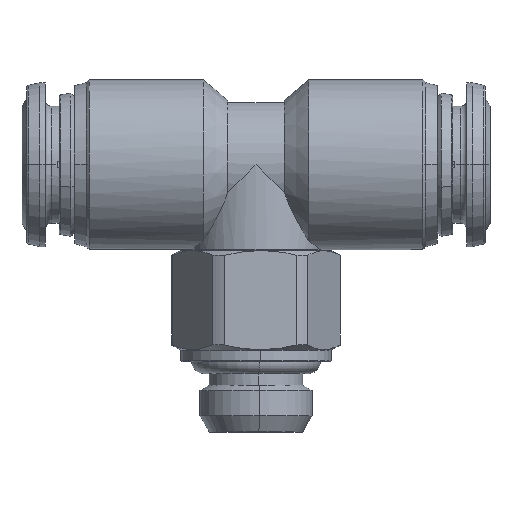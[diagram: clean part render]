
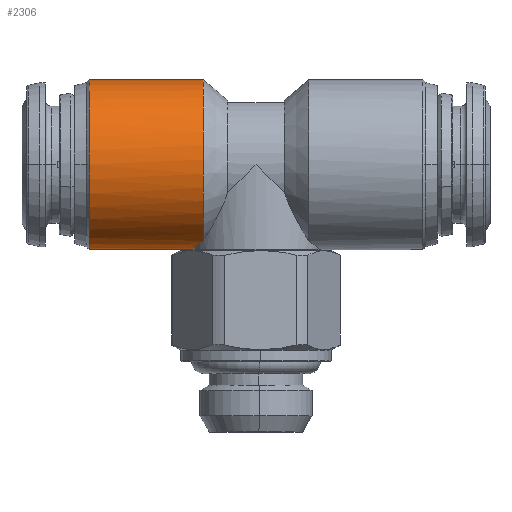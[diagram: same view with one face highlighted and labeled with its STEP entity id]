
A CAD part, top view. The second image highlights one B-rep face of the part: STEP entity #2306.
In plain terms, the highlighted cylindrical face has radius 7.25 mm (diameter 14.5 mm), a partial arc.
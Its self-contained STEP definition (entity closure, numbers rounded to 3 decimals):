
#79 = CARTESIAN_POINT ( 'NONE',  ( -15.5, 0., 0. ) ) ;
#224 = CARTESIAN_POINT ( 'NONE',  ( -5.477, 0.017, 0.576 ) ) ;
#287 = CIRCLE ( 'NONE', #3461, 7.25 ) ;
#387 = CYLINDRICAL_SURFACE ( 'NONE', #2422, 7.25 ) ;
#405 = ORIENTED_EDGE ( 'NONE', *, *, #3834, .T. ) ;
#494 = DIRECTION ( 'NONE',  ( 0., -1., 0. ) ) ;
#501 = CARTESIAN_POINT ( 'NONE',  ( -14.268, 0., 0. ) ) ;
#538 = DIRECTION ( 'NONE',  ( -1., 0., 0. ) ) ;
#685 = EDGE_CURVE ( 'NONE', #4040, #4174, #4235, .T. ) ;
#708 = CARTESIAN_POINT ( 'NONE',  ( -4.795, 0.519, 2.707 ) ) ;
#742 = CARTESIAN_POINT ( 'NONE',  ( -4.5, 0.726, 3.162 ) ) ;
#781 = B_SPLINE_CURVE_WITH_KNOTS ( 'NONE', 3,
 ( #1940, #2751, #224, #1038, #4348, #4398, #4434, #708, #3493, #742 ),
 .UNSPECIFIED., .F., .F.,
 ( 4, 2, 2, 2, 4 ),
 ( 0.009, 0.01, 0.011, 0.012, 0.012 ),
 .UNSPECIFIED. ) ;
#958 = EDGE_CURVE ( 'NONE', #4463, #4040, #1935, .T. ) ;
#981 = VECTOR ( 'NONE', #4267, 1000. ) ;
#1038 = CARTESIAN_POINT ( 'NONE',  ( -5.388, 0.085, 1.141 ) ) ;
#1279 = ORIENTED_EDGE ( 'NONE', *, *, #5070, .T. ) ;
#1335 = AXIS2_PLACEMENT_3D ( 'NONE', #2654, #3078, #4724 ) ;
#1693 = CARTESIAN_POINT ( 'NONE',  ( -14.268, 14.5, 0. ) ) ;
#1935 = CIRCLE ( 'NONE', #4506, 7.25 ) ;
#1940 = CARTESIAN_POINT ( 'NONE',  ( -5.5, 0., 0. ) ) ;
#1957 = ORIENTED_EDGE ( 'NONE', *, *, #685, .T. ) ;
#2164 = DIRECTION ( 'NONE',  ( -1., 0., 0. ) ) ;
#2306 = ADVANCED_FACE ( 'NONE', ( #3157 ), #387, .T. ) ;
#2378 = VERTEX_POINT ( 'NONE', #501 ) ;
#2422 = AXIS2_PLACEMENT_3D ( 'NONE', #4188, #2519, #4105 ) ;
#2433 = DIRECTION ( 'NONE',  ( 1., 0., 0. ) ) ;
#2519 = DIRECTION ( 'NONE',  ( -1., 0., 0. ) ) ;
#2622 = CARTESIAN_POINT ( 'NONE',  ( -15.5, 14.5, 0. ) ) ;
#2642 = ORIENTED_EDGE ( 'NONE', *, *, #3500, .F. ) ;
#2654 = CARTESIAN_POINT ( 'NONE',  ( -14.268, 7.25, 0. ) ) ;
#2751 = CARTESIAN_POINT ( 'NONE',  ( -5.5, 0., 0.29 ) ) ;
#2811 = CARTESIAN_POINT ( 'NONE',  ( -14.268, 7.25, 0. ) ) ;
#2851 = EDGE_LOOP ( 'NONE', ( #3708, #1957, #405, #4695, #2642, #1279 ) ) ;
#2864 = CIRCLE ( 'NONE', #1335, 7.25 ) ;
#3078 = DIRECTION ( 'NONE',  ( 1., 0., 0. ) ) ;
#3132 = CARTESIAN_POINT ( 'NONE',  ( -5.5, 0., 0. ) ) ;
#3157 = FACE_OUTER_BOUND ( 'NONE', #2851, .T. ) ;
#3294 = VECTOR ( 'NONE', #538, 1000. ) ;
#3394 = VERTEX_POINT ( 'NONE', #5159 ) ;
#3422 = CARTESIAN_POINT ( 'NONE',  ( -4.5, 0.726, 3.162 ) ) ;
#3461 = AXIS2_PLACEMENT_3D ( 'NONE', #2811, #2433, #4458 ) ;
#3493 = CARTESIAN_POINT ( 'NONE',  ( -4.654, 0.62, 2.943 ) ) ;
#3500 = EDGE_CURVE ( 'NONE', #5111, #2378, #3721, .T. ) ;
#3708 = ORIENTED_EDGE ( 'NONE', *, *, #958, .T. ) ;
#3721 = LINE ( 'NONE', #79, #3294 ) ;
#3834 = EDGE_CURVE ( 'NONE', #4174, #3394, #2864, .T. ) ;
#4040 = VERTEX_POINT ( 'NONE', #4159 ) ;
#4105 = DIRECTION ( 'NONE',  ( 0., -1., 0. ) ) ;
#4159 = CARTESIAN_POINT ( 'NONE',  ( -4.5, 14.5, 0. ) ) ;
#4174 = VERTEX_POINT ( 'NONE', #1693 ) ;
#4188 = CARTESIAN_POINT ( 'NONE',  ( -15.5, 7.25, 0. ) ) ;
#4235 = LINE ( 'NONE', #2622, #981 ) ;
#4267 = DIRECTION ( 'NONE',  ( -1., 0., 0. ) ) ;
#4348 = CARTESIAN_POINT ( 'NONE',  ( -5.321, 0.135, 1.422 ) ) ;
#4398 = CARTESIAN_POINT ( 'NONE',  ( -5.147, 0.264, 1.958 ) ) ;
#4434 = CARTESIAN_POINT ( 'NONE',  ( -5.042, 0.342, 2.215 ) ) ;
#4458 = DIRECTION ( 'NONE',  ( 0., 0., -1. ) ) ;
#4463 = VERTEX_POINT ( 'NONE', #3422 ) ;
#4506 = AXIS2_PLACEMENT_3D ( 'NONE', #4528, #2164, #494 ) ;
#4528 = CARTESIAN_POINT ( 'NONE',  ( -4.5, 7.25, 0. ) ) ;
#4695 = ORIENTED_EDGE ( 'NONE', *, *, #5217, .T. ) ;
#4724 = DIRECTION ( 'NONE',  ( 0., 0., -1. ) ) ;
#5070 = EDGE_CURVE ( 'NONE', #5111, #4463, #781, .T. ) ;
#5111 = VERTEX_POINT ( 'NONE', #3132 ) ;
#5159 = CARTESIAN_POINT ( 'NONE',  ( -14.268, 7.25, 7.25 ) ) ;
#5217 = EDGE_CURVE ( 'NONE', #3394, #2378, #287, .T. ) ;
